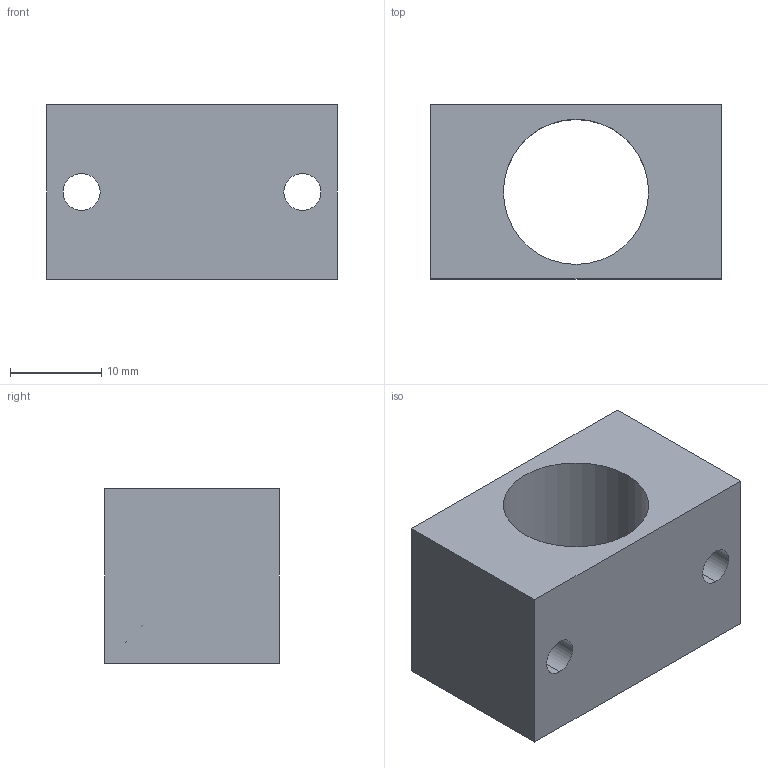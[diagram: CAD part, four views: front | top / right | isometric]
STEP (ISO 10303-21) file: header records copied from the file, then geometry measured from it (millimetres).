
FILE_DESCRIPTION (( 'STEP AP203' ), '1' );
FILE_NAME ('269-18-314.STEP', '2020-03-02T22:16:02', ( '' ), ( '' ), 'SwSTEP 2.0', 'SolidWorks 2017', '' );
FILE_SCHEMA (( 'CONFIG_CONTROL_DESIGN' ));
Length unit declared in the file: inch
Products named in the file (1): 269-18-314
Bounding box: 31.75 x 19.05 x 19.05 mm (x, y, z)
Volume: 7263.5 mm3; surface area: 4131.5 mm2
Topology: 1 solids, 1 shells, 12 faces, 30 edges, 20 vertices
Faces by surface type: cylinder 6, plane 6
Entity records: 457 total; most frequent: DIRECTION 68, CARTESIAN_POINT 63, ORIENTED_EDGE 60, EDGE_CURVE 30, AXIS2_PLACEMENT_3D 25, VERTEX_POINT 20, EDGE_LOOP 18, VECTOR 18
